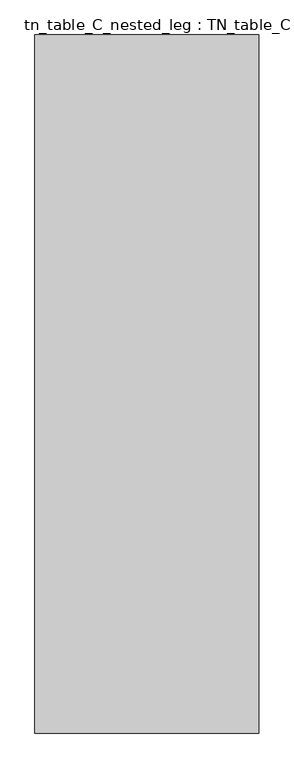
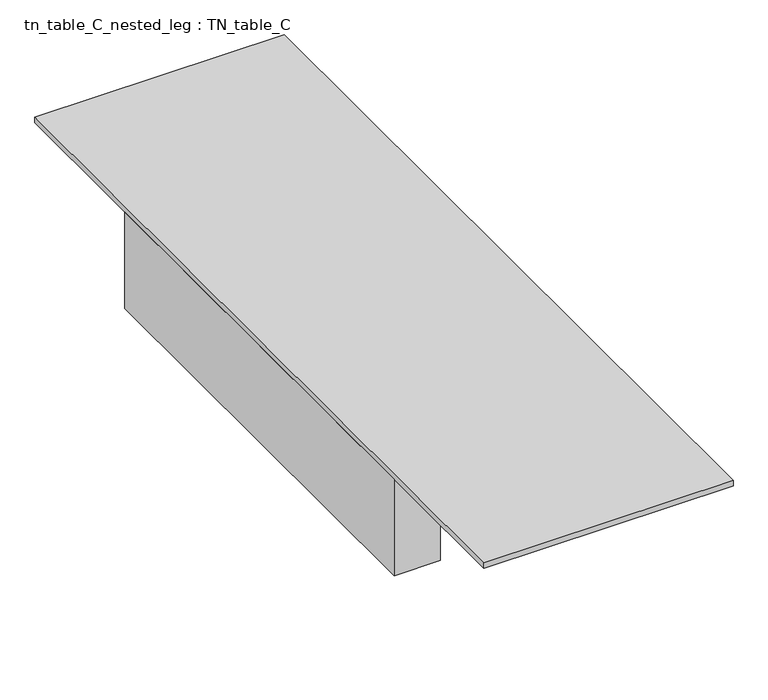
"""IFC4 building model written with IfcOpenShell, lengths in millimetres: furniture geometry, tn_table_C_nested_leg : TN_table_C."""

from ifc_helpers import new_model, si_unit, frame, origin, origin_with_axes, place, context, project, spatial, polyline, outline, extrude, source, transform, mapped, element, save


def tn_table_c_nested_leg_tn_table_c_07294a5f(model_context):
    return source(origin(), model_context, "Body", "SweptSolid", [
        extrude(outline(polyline([(6.7934178, 1539.3033213), (6.7934178, -1539.3033213), (-298.0065822, -1539.3033213), (-298.0065822, 1539.3033213), (6.7934178, 1539.3033213)])), origin_with_axes(), (0.0, 0.0, 1.0), 673.1),
        extrude(outline(polyline([(-1333.5378979, 1539.3033213), (-1333.5378979, -1539.3033213), (-1638.3378979, -1539.3033213), (-1638.3378979, 1539.3033213), (-1333.5378979, 1539.3033213)])), origin_with_axes(), (0.0, 0.0, 1.0), 673.1),
        extrude(outline(polyline([(6.7934178, 2565.5055356), (6.7934178, -2565.5055356), (-1638.3378979, -2565.5055356), (-1638.3378979, 2565.5055356), (6.7934178, 2565.5055356)])), frame((0.0, 0.0, 673.1), z_axis=(0.0, 0.0, 1.0), x_axis=(1.0, 0.0, 0.0)), (0.0, 0.0, 1.0), 38.1),
    ])


if __name__ == "__main__":
    model = new_model("IFC4")
    model_context = context("Model", 3, world=origin())
    ifc_project = project(units=[si_unit("LENGTHUNIT", "METRE", prefix="MILLI")], contexts=[model_context])
    site = spatial("IfcSite", under=ifc_project)
    building = spatial("IfcBuilding", under=site)
    placement = place(None, origin())
    tn_table_c_nested_leg_tn_table_c_shape = tn_table_c_nested_leg_tn_table_c_07294a5f(model_context)
    element("IfcFurniture", 1, ObjectType="tn_table_C_nested_leg : TN_table_C", at=placement, inside=building, context=model_context, shape_type="MappedRepresentation", body=[
        mapped(tn_table_c_nested_leg_tn_table_c_shape, transform((0.0, 0.0, 0.0), x_axis=(1.0, 0.0, 0.0), y_axis=(0.0, 1.0, 0.0), z_axis=(0.0, 0.0, 1.0))),
    ])
    save(model, "model.ifc")
